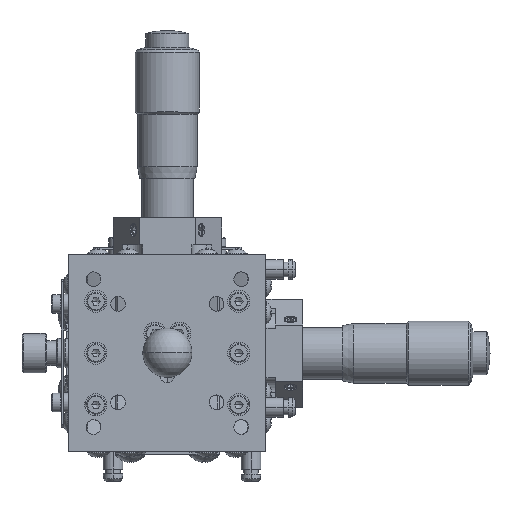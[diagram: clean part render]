
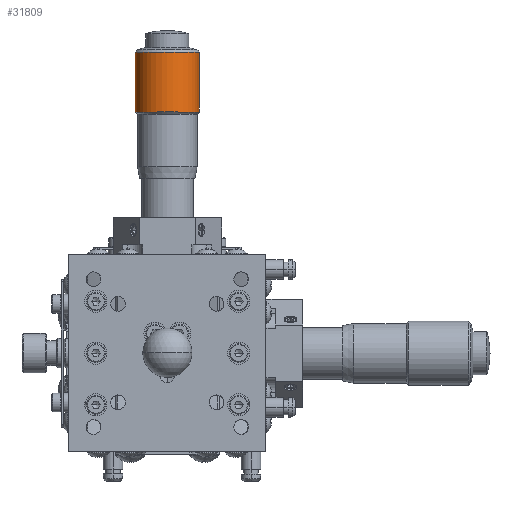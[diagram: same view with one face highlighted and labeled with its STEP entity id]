
A CAD part, top view. The second image highlights one B-rep face of the part: STEP entity #31809.
In plain terms, the highlighted cylindrical face has radius 6.5 mm (diameter 13 mm), a partial arc.
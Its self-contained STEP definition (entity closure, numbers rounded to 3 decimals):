
#31800 = VERTEX_POINT ( 'NONE', #93055 ) ;
#31802 = EDGE_CURVE ( 'NONE', #31800, #31803, #93054, .T. ) ;
#31803 = VERTEX_POINT ( 'NONE', #93049 ) ;
#31809 = ADVANCED_FACE ( 'NONE', ( #93093 ), #93092, .T. ) ;
#31813 = EDGE_LOOP ( 'NONE', ( #31814, #31912, #31914, #31915 ) ) ;
#31814 = ORIENTED_EDGE ( 'NONE', *, *, #31815, .T. ) ;
#31815 = EDGE_CURVE ( 'NONE', #31816, #31817, #93090, .T. ) ;
#31816 = VERTEX_POINT ( 'NONE', #93082 ) ;
#31817 = VERTEX_POINT ( 'NONE', #93081 ) ;
#31912 = ORIENTED_EDGE ( 'NONE', *, *, #31913, .T. ) ;
#31913 = EDGE_CURVE ( 'NONE', #31817, #31803, #93163, .T. ) ;
#31914 = ORIENTED_EDGE ( 'NONE', *, *, #31802, .F. ) ;
#31915 = ORIENTED_EDGE ( 'NONE', *, *, #31918, .F. ) ;
#31918 = EDGE_CURVE ( 'NONE', #31816, #31800, #93159, .T. ) ;
#93049 = CARTESIAN_POINT ( 'NONE',  ( 25.95, -24., 2.25 ) ) ;
#93050 = DIRECTION ( 'NONE',  ( 0., -1., 0. ) ) ;
#93051 = DIRECTION ( 'NONE',  ( -1., 0., 0. ) ) ;
#93052 = CARTESIAN_POINT ( 'NONE',  ( 25.95, -30.5, 2.25 ) ) ;
#93053 = AXIS2_PLACEMENT_3D ( 'NONE', #93052, #93051, #93050 ) ;
#93054 = CIRCLE ( 'NONE', #93053, 6.5 ) ;
#93055 = CARTESIAN_POINT ( 'NONE',  ( 25.95, -37., 2.25 ) ) ;
#93081 = CARTESIAN_POINT ( 'NONE',  ( 38.125, -24., 2.25 ) ) ;
#93082 = CARTESIAN_POINT ( 'NONE',  ( 38.125, -37., 2.25 ) ) ;
#93083 = DIRECTION ( 'NONE',  ( 0., -1., 0. ) ) ;
#93084 = DIRECTION ( 'NONE',  ( -1., 0., 0. ) ) ;
#93085 = CARTESIAN_POINT ( 'NONE',  ( 38.125, -30.5, 2.25 ) ) ;
#93086 = AXIS2_PLACEMENT_3D ( 'NONE', #93085, #93084, #93083 ) ;
#93087 = DIRECTION ( 'NONE',  ( 0., -1., 0. ) ) ;
#93088 = DIRECTION ( 'NONE',  ( -1., 0., 0. ) ) ;
#93089 = AXIS2_PLACEMENT_3D ( 'NONE', #93091, #93088, #93087 ) ;
#93090 = CIRCLE ( 'NONE', #93086, 6.5 ) ;
#93091 = CARTESIAN_POINT ( 'NONE',  ( -18.616, -30.5, 2.25 ) ) ;
#93092 = CYLINDRICAL_SURFACE ( 'NONE', #93089, 6.5 ) ;
#93093 = FACE_OUTER_BOUND ( 'NONE', #31813, .T. ) ;
#93156 = DIRECTION ( 'NONE',  ( -1., 0., 0. ) ) ;
#93157 = VECTOR ( 'NONE', #93156, 1000. ) ;
#93158 = CARTESIAN_POINT ( 'NONE',  ( -18.616, -37., 2.25 ) ) ;
#93159 = LINE ( 'NONE', #93158, #93157 ) ;
#93160 = DIRECTION ( 'NONE',  ( -1., 0., 0. ) ) ;
#93161 = VECTOR ( 'NONE', #93160, 1000. ) ;
#93162 = CARTESIAN_POINT ( 'NONE',  ( -18.616, -24., 2.25 ) ) ;
#93163 = LINE ( 'NONE', #93162, #93161 ) ;
